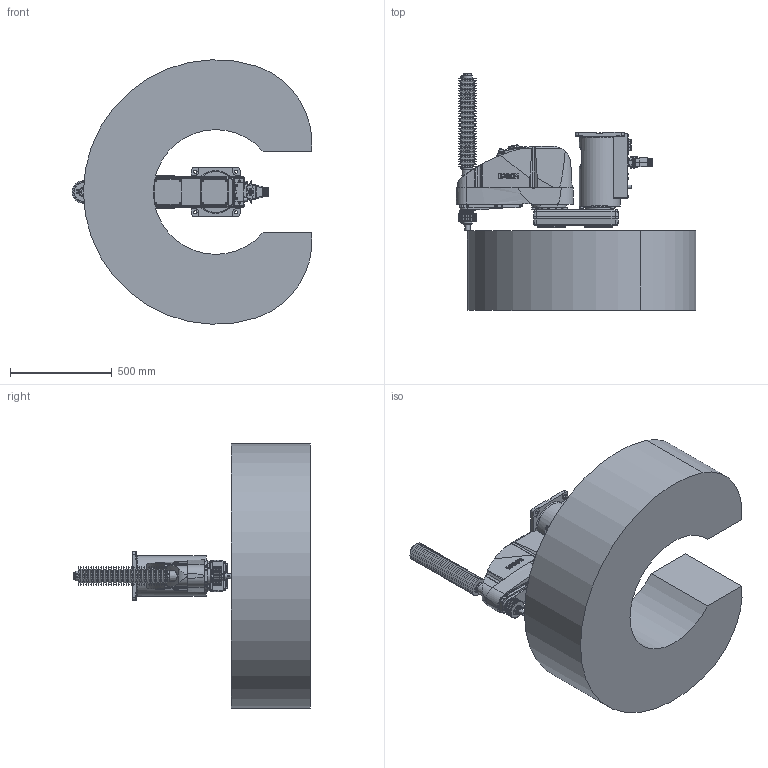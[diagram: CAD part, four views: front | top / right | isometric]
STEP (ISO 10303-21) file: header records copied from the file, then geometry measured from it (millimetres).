
FILE_DESCRIPTION( ( 'STEP AP214' ), '1' );
FILE_NAME( 'C:/Users/9607552/Desktop/GX10-B654CR_straight.stp', '2023-08-01T09:04:46', ( '' ), ( '' ), ' ', 'PARTsolutions', ' ' );
FILE_SCHEMA( ( 'AUTOMOTIVE_DESIGN { 1 0 10303 214 1 1 1 1 }' ) );
Length unit declared in the file: millimetre
Products named in the file (7): GX10-B654CRS-W; _Base cr; _Straight-B; _J1 Arm GX10-250 r/w; _J2 Arm GX10-c; _J3 Arm GX10-c (4); _GX10_20B-33_4
Assembly tree (6 placements, depth 2):
  GX10-B654CRS-W
    _Base cr
    _Straight-B
    _J1 Arm GX10-250 r/w
    _J2 Arm GX10-c
    _J3 Arm GX10-c (4)
    _GX10_20B-33_4
Bounding box: 1177.56 x 1164 x 1299.45 mm (x, y, z)
Volume: 364026420.5 mm3; surface area: 5816653.1 mm2
Topology: 6 solids, 6 shells, 2580 faces, 6311 edges, 4074 vertices
Faces by surface type: plane 1310, cylinder 732, cone 430, torus 70, bspline 37, sphere 1
Full cylindrical faces by diameter (mm): 1.18 x55, 2.5 x2, 3 x32, 3.242 x10, 3.3 x9, 4 x2, 4.2 x2, 4.8 x4, 5.1 x4, 5.34 x4, 5.5 x12, 6 x3, 6.2 x2, 6.647 x2, 7 x27, 7.5 x1, 8 x4, 8.5 x2, 9 x4, 10 x32, 10.5 x3, 11 x14, 12 x7, 12.25 x1, 13 x2, 14 x8, 14.25 x1, 16 x7, 18 x2, 20.4 x1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
Entity records: 96761 total; most frequent: CARTESIAN_POINT 18110, DIRECTION 12037, ORIENTED_EDGE 10998, EDGE_CURVE 5499, AXIS2_PLACEMENT_3D 4614, VERTEX_POINT 3967, EDGE_LOOP 3643, FACE_OUTER_BOUND 2928
